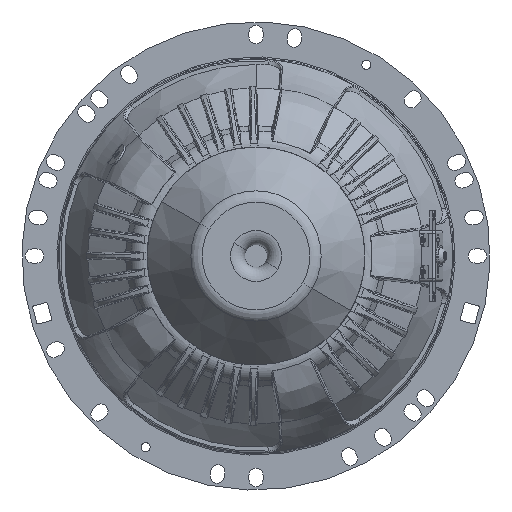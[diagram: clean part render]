
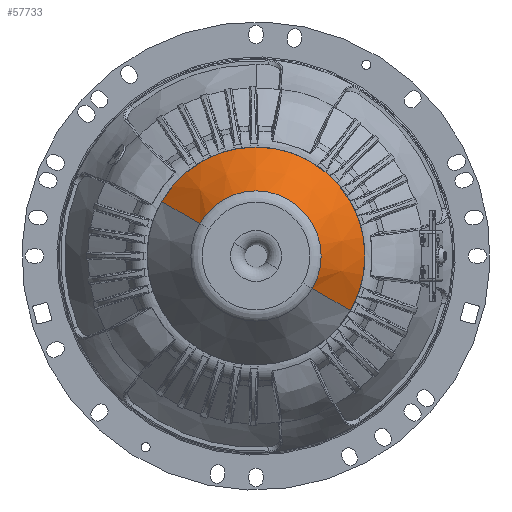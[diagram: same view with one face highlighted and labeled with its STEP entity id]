
A CAD part, front view. The second image highlights one B-rep face of the part: STEP entity #57733.
In plain terms, the highlighted conical face has half-angle 36.431 degrees and reference radius 23.023 mm.
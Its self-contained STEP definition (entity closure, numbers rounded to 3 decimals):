
#511 = ORIENTED_EDGE ( 'NONE', *, *, #71908, .T. ) ;
#4276 = VERTEX_POINT ( 'NONE', #40386 ) ;
#4351 = CARTESIAN_POINT ( 'NONE',  ( -19.69, -25.769, 11.472 ) ) ;
#4817 = VERTEX_POINT ( 'NONE', #46161 ) ;
#6990 = DIRECTION ( 'NONE',  ( 0.866, 0., -0.5 ) ) ;
#12843 = DIRECTION ( 'NONE',  ( -0.514, 0.805, 0.297 ) ) ;
#13513 = DIRECTION ( 'NONE',  ( 0., -1., 0. ) ) ;
#13838 = CONICAL_SURFACE ( 'NONE', #20773, 23.023, 0.636 ) ;
#19339 = CARTESIAN_POINT ( 'NONE',  ( 20.187, -25.769, -11.551 ) ) ;
#20202 = LINE ( 'NONE', #19339, #42306 ) ;
#20773 = AXIS2_PLACEMENT_3D ( 'NONE', #51271, #32111, #58608 ) ;
#25189 = VECTOR ( 'NONE', #12843, 1000. ) ;
#25390 = AXIS2_PLACEMENT_3D ( 'NONE', #53242, #32803, #6990 ) ;
#25469 = CIRCLE ( 'NONE', #42197, 23.023 ) ;
#31341 = ORIENTED_EDGE ( 'NONE', *, *, #39055, .F. ) ;
#32111 = DIRECTION ( 'NONE',  ( 0., 1., 0. ) ) ;
#32803 = DIRECTION ( 'NONE',  ( 0., -1., 0. ) ) ;
#33570 = VERTEX_POINT ( 'NONE', #4351 ) ;
#39055 = EDGE_CURVE ( 'NONE', #65824, #33570, #25469, .T. ) ;
#40386 = CARTESIAN_POINT ( 'NONE',  ( 33.59, -4.8, -19.29 ) ) ;
#42197 = AXIS2_PLACEMENT_3D ( 'NONE', #45396, #13513, #66656 ) ;
#42306 = VECTOR ( 'NONE', #46404, 1000. ) ;
#45396 = CARTESIAN_POINT ( 'NONE',  ( 0.249, -25.769, -0.04 ) ) ;
#46161 = CARTESIAN_POINT ( 'NONE',  ( -33.093, -4.8, 19.21 ) ) ;
#46404 = DIRECTION ( 'NONE',  ( 0.514, 0.805, -0.297 ) ) ;
#51271 = CARTESIAN_POINT ( 'NONE',  ( 0.249, -25.769, -0.04 ) ) ;
#53242 = CARTESIAN_POINT ( 'NONE',  ( 0.249, -4.8, -0.04 ) ) ;
#55858 = ORIENTED_EDGE ( 'NONE', *, *, #81628, .F. ) ;
#57733 = ADVANCED_FACE ( 'NONE', ( #85150 ), #13838, .T. ) ;
#58608 = DIRECTION ( 'NONE',  ( -0.866, 0., 0.5 ) ) ;
#61517 = CIRCLE ( 'NONE', #25390, 38.5 ) ;
#65138 = EDGE_LOOP ( 'NONE', ( #31341, #75165, #511, #55858 ) ) ;
#65824 = VERTEX_POINT ( 'NONE', #79773 ) ;
#66410 = CARTESIAN_POINT ( 'NONE',  ( -19.69, -25.769, 11.472 ) ) ;
#66656 = DIRECTION ( 'NONE',  ( 0.866, 0., -0.5 ) ) ;
#66831 = LINE ( 'NONE', #66410, #25189 ) ;
#71908 = EDGE_CURVE ( 'NONE', #4276, #4817, #61517, .T. ) ;
#75165 = ORIENTED_EDGE ( 'NONE', *, *, #81005, .T. ) ;
#79773 = CARTESIAN_POINT ( 'NONE',  ( 20.187, -25.769, -11.551 ) ) ;
#81005 = EDGE_CURVE ( 'NONE', #65824, #4276, #20202, .T. ) ;
#81628 = EDGE_CURVE ( 'NONE', #33570, #4817, #66831, .T. ) ;
#85150 = FACE_OUTER_BOUND ( 'NONE', #65138, .T. ) ;
